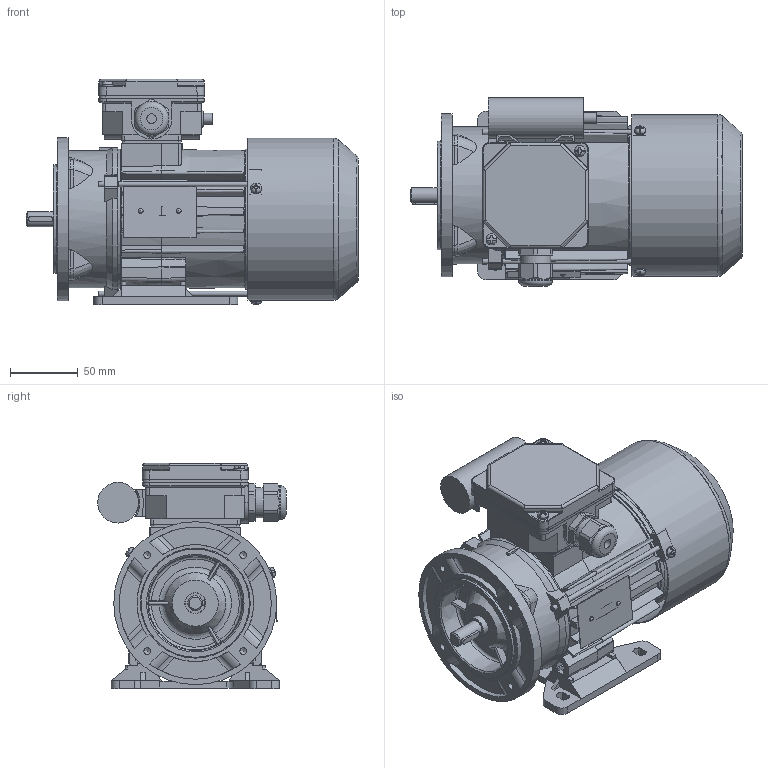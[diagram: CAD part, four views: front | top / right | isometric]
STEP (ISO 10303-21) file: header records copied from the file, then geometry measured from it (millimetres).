
FILE_DESCRIPTION(/* description */ ('Unknown'),/* implementation_level */ '2;1');
FILE_NAME(/* name */ '3SSIEL63-4B1',/* time_stamp */ '2024-06-17T10:43:54+02:00',/* author */ ('Unknown'),/* organization */ ('Unknown'),/* preprocessor_version */ 'ST-DEVELOPER v16.7',/* originating_system */ 'Solid Edge',/* authorisation */ 'Unknown');
FILE_SCHEMA (('CONFIG_CONTROL_DESIGN','AUTOMOTIVE_DESIGN {1 0 10303 214 3 1 1}'));
Length unit declared in the file: millimetre
Products named in the file (1): Czêœæ11
Bounding box: 244.47 x 138.82 x 166 mm (x, y, z)
Volume: 687858.2 mm3; surface area: 383376.1 mm2
Topology: 2 solids, 2 shells, 2039 faces, 5841 edges, 3811 vertices
Faces by surface type: plane 1056, cylinder 599, torus 133, bspline 115, cone 115, sphere 21
Full cylindrical faces by diameter (mm): 2 x1, 2.4 x2, 3 x1, 3.7 x7, 3.8 x1, 4 x8, 4.5 x5, 4.6 x1, 4.8 x2, 5 x6, 5.8 x4, 6.5 x1, 7 x4, 7.998 x1, 8 x6, 10.998 x1, 12.897 x1, 13.097 x1, 14.997 x2, 15.4 x2, 18.996 x2, 19.496 x1, 19.996 x1, 20.096 x1, 21.516 x4, 22.3 x1, 25 x1, 28 x2, 28.48 x4, 29.994 x1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
Entity records: 83629 total; most frequent: CARTESIAN_POINT 18189, ORIENTED_EDGE 10986, DIRECTION 10118, EDGE_CURVE 5493, VERTEX_POINT 3680, AXIS2_PLACEMENT_3D 3680, LINE 2758, VECTOR 2758
